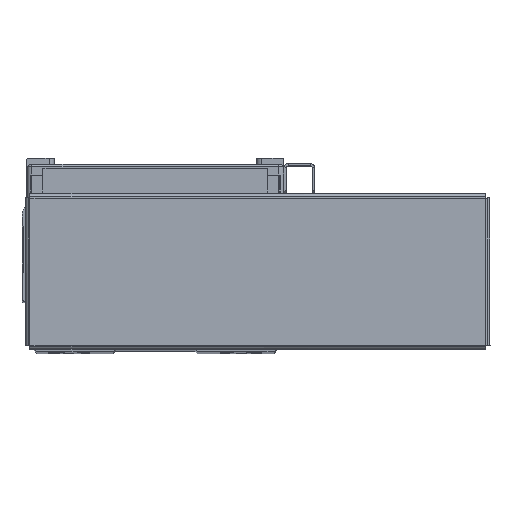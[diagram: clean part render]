
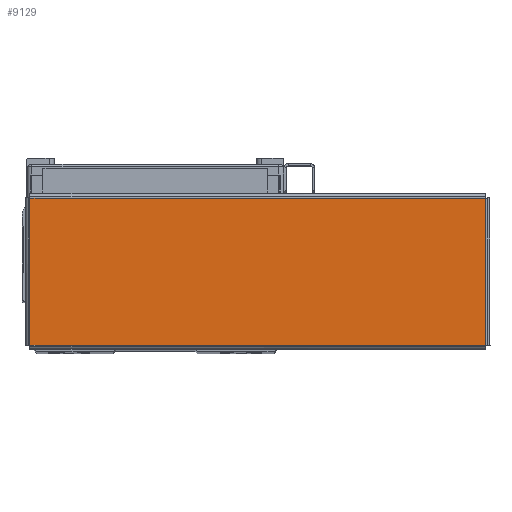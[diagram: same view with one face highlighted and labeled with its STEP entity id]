
A CAD part, top view. The second image highlights one B-rep face of the part: STEP entity #9129.
In plain terms, the highlighted planar face has unit normal (0, 0, 1) as drawn and (0, -1, 0) by its records, which use the part's own axes.
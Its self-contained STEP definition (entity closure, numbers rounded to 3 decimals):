
#4169 = VERTEX_POINT ( 'NONE', #43346 ) ;
#4241 = VERTEX_POINT ( 'NONE', #43418 ) ;
#4261 = VERTEX_POINT ( 'NONE', #43453 ) ;
#4279 = VERTEX_POINT ( 'NONE', #43430 ) ;
#9129 = ADVANCED_FACE ( 'NONE', ( #41173 ), #48547, .F. ) ;
#12964 = EDGE_LOOP ( 'NONE', ( #49870, #49837, #49809, #49865 ) ) ;
#19658 = CARTESIAN_POINT ( 'NONE',  ( 92.263, -1., -29.793 ) ) ;
#19659 = DIRECTION ( 'NONE',  ( 0., 0., 1. ) ) ;
#19668 = DIRECTION ( 'NONE',  ( -1., 0., 0. ) ) ;
#19677 = CARTESIAN_POINT ( 'NONE',  ( 92.293, -1., 29.763 ) ) ;
#19694 = DIRECTION ( 'NONE',  ( 0., 0., -1. ) ) ;
#19733 = CARTESIAN_POINT ( 'NONE',  ( -92.263, -1., 29.793 ) ) ;
#19787 = CARTESIAN_POINT ( 'NONE',  ( -92.293, -1., -29.763 ) ) ;
#19799 = DIRECTION ( 'NONE',  ( 1., 0., 0. ) ) ;
#20560 = LINE ( 'NONE', #19658, #20604 ) ;
#20590 = LINE ( 'NONE', #19677, #20603 ) ;
#20603 = VECTOR ( 'NONE', #19668, 1000. ) ;
#20604 = VECTOR ( 'NONE', #19659, 1000. ) ;
#20627 = LINE ( 'NONE', #19733, #20632 ) ;
#20632 = VECTOR ( 'NONE', #19694, 1000. ) ;
#20691 = LINE ( 'NONE', #19787, #20710 ) ;
#20710 = VECTOR ( 'NONE', #19799, 1000. ) ;
#38524 = AXIS2_PLACEMENT_3D ( 'NONE', #48534, #48518, #48525 ) ;
#39097 = EDGE_CURVE ( 'NONE', #4241, #4169, #20560, .T. ) ;
#39098 = EDGE_CURVE ( 'NONE', #4169, #4261, #20590, .T. ) ;
#39119 = EDGE_CURVE ( 'NONE', #4261, #4279, #20627, .T. ) ;
#39151 = EDGE_CURVE ( 'NONE', #4279, #4241, #20691, .T. ) ;
#41173 = FACE_OUTER_BOUND ( 'NONE', #12964, .T. ) ;
#43346 = CARTESIAN_POINT ( 'NONE',  ( 92.263, -1., 29.763 ) ) ;
#43418 = CARTESIAN_POINT ( 'NONE',  ( 92.263, -1., -29.763 ) ) ;
#43430 = CARTESIAN_POINT ( 'NONE',  ( -92.263, -1., -29.763 ) ) ;
#43453 = CARTESIAN_POINT ( 'NONE',  ( -92.263, -1., 29.763 ) ) ;
#48518 = DIRECTION ( 'NONE',  ( 0., 1., 0. ) ) ;
#48525 = DIRECTION ( 'NONE',  ( 0., 0., 1. ) ) ;
#48534 = CARTESIAN_POINT ( 'NONE',  ( 0., -1., 0. ) ) ;
#48547 = PLANE ( 'NONE',  #38524 ) ;
#49809 = ORIENTED_EDGE ( 'NONE', *, *, #39098, .T. ) ;
#49837 = ORIENTED_EDGE ( 'NONE', *, *, #39097, .T. ) ;
#49865 = ORIENTED_EDGE ( 'NONE', *, *, #39119, .T. ) ;
#49870 = ORIENTED_EDGE ( 'NONE', *, *, #39151, .T. ) ;
